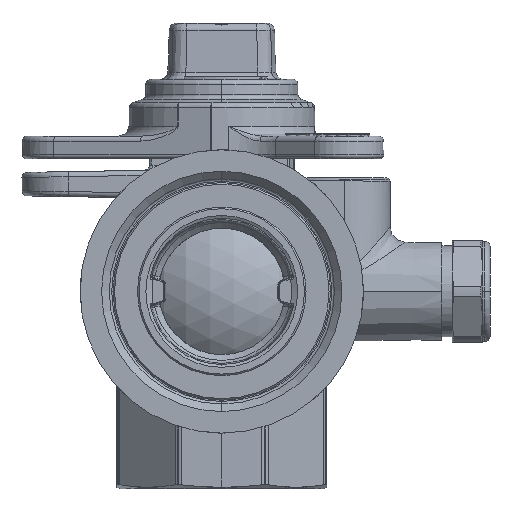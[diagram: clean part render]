
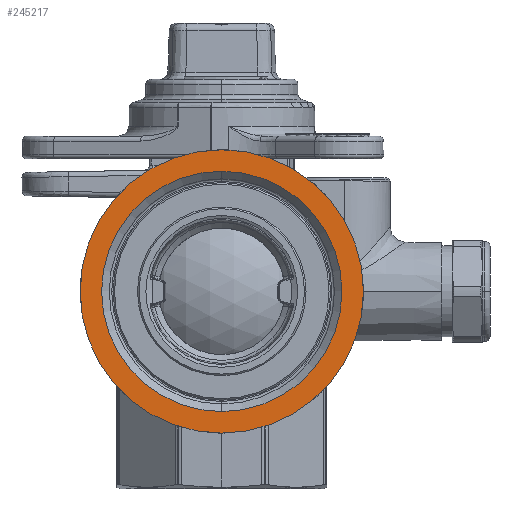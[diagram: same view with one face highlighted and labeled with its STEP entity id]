
A CAD part, left-side view. The second image highlights one B-rep face of the part: STEP entity #245217.
In plain terms, the highlighted planar face has unit normal (-1, 0, 0).
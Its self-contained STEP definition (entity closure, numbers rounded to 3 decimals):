
#245015 = CONICAL_SURFACE('',#245016,23.,0.785);
#245016 = AXIS2_PLACEMENT_3D('',#245017,#245018,#245019);
#245017 = CARTESIAN_POINT('',(-68.65,-27.416,-0.908));
#245018 = DIRECTION('',(-1.,0.,0.));
#245019 = DIRECTION('',(0.,0.,1.));
#245089 = CONICAL_SURFACE('',#245090,23.,0.785);
#245090 = AXIS2_PLACEMENT_3D('',#245091,#245092,#245093);
#245091 = CARTESIAN_POINT('',(-68.65,-27.416,-0.908));
#245092 = DIRECTION('',(-1.,0.,0.));
#245093 = DIRECTION('',(0.,0.,1.));
#245113 = VERTEX_POINT('',#245114);
#245114 = CARTESIAN_POINT('',(-69.4,-27.416,22.842));
#245135 = EDGE_CURVE('',#245113,#245136,#245138,.T.);
#245136 = VERTEX_POINT('',#245137);
#245137 = CARTESIAN_POINT('',(-69.4,-27.416,-24.658));
#245138 = SURFACE_CURVE('',#245139,(#245144,#245151),.PCURVE_S1.);
#245139 = CIRCLE('',#245140,23.75);
#245140 = AXIS2_PLACEMENT_3D('',#245141,#245142,#245143);
#245141 = CARTESIAN_POINT('',(-69.4,-27.416,-0.908));
#245142 = DIRECTION('',(1.,0.,0.));
#245143 = DIRECTION('',(0.,0.,1.));
#245144 = PCURVE('',#245089,#245145);
#245145 = DEFINITIONAL_REPRESENTATION('',(#245146),#245150);
#245146 = LINE('',#245147,#245148);
#245147 = CARTESIAN_POINT('',(6.283,0.75));
#245148 = VECTOR('',#245149,1.);
#245149 = DIRECTION('',(-1.,0.));
#245150 = ( GEOMETRIC_REPRESENTATION_CONTEXT(2) 
PARAMETRIC_REPRESENTATION_CONTEXT() REPRESENTATION_CONTEXT('2D SPACE',''
  ) );
#245151 = PCURVE('',#245152,#245157);
#245152 = PLANE('',#245153);
#245153 = AXIS2_PLACEMENT_3D('',#245154,#245155,#245156);
#245154 = CARTESIAN_POINT('',(-69.4,-27.416,-0.908));
#245155 = DIRECTION('',(-1.,0.,0.));
#245156 = DIRECTION('',(0.,0.,1.));
#245157 = DEFINITIONAL_REPRESENTATION('',(#245158),#245166);
#245158 = ( BOUNDED_CURVE() B_SPLINE_CURVE(2,(#245159,#245160,#245161,
    #245162,#245163,#245164,#245165),.UNSPECIFIED.,.T.,.F.) 
B_SPLINE_CURVE_WITH_KNOTS((1,2,2,2,2,1),(-2.094,0.,
    2.094,4.189,6.283,8.378),
.UNSPECIFIED.) CURVE() GEOMETRIC_REPRESENTATION_ITEM() 
RATIONAL_B_SPLINE_CURVE((1.,0.5,1.,0.5,1.,0.5,1.)) REPRESENTATION_ITEM(
  '') );
#245159 = CARTESIAN_POINT('',(23.75,0.));
#245160 = CARTESIAN_POINT('',(23.75,-41.136));
#245161 = CARTESIAN_POINT('',(-11.875,-20.568));
#245162 = CARTESIAN_POINT('',(-47.5,0.));
#245163 = CARTESIAN_POINT('',(-11.875,20.568));
#245164 = CARTESIAN_POINT('',(23.75,41.136));
#245165 = CARTESIAN_POINT('',(23.75,0.));
#245166 = ( GEOMETRIC_REPRESENTATION_CONTEXT(2) 
PARAMETRIC_REPRESENTATION_CONTEXT() REPRESENTATION_CONTEXT('2D SPACE',''
  ) );
#245193 = EDGE_CURVE('',#245113,#245136,#245194,.T.);
#245194 = SURFACE_CURVE('',#245195,(#245200,#245207),.PCURVE_S1.);
#245195 = CIRCLE('',#245196,23.75);
#245196 = AXIS2_PLACEMENT_3D('',#245197,#245198,#245199);
#245197 = CARTESIAN_POINT('',(-69.4,-27.416,-0.908));
#245198 = DIRECTION('',(-1.,0.,0.));
#245199 = DIRECTION('',(0.,0.,1.));
#245200 = PCURVE('',#245015,#245201);
#245201 = DEFINITIONAL_REPRESENTATION('',(#245202),#245206);
#245202 = LINE('',#245203,#245204);
#245203 = CARTESIAN_POINT('',(0.,0.75));
#245204 = VECTOR('',#245205,1.);
#245205 = DIRECTION('',(1.,0.));
#245206 = ( GEOMETRIC_REPRESENTATION_CONTEXT(2) 
PARAMETRIC_REPRESENTATION_CONTEXT() REPRESENTATION_CONTEXT('2D SPACE',''
  ) );
#245207 = PCURVE('',#245152,#245208);
#245208 = DEFINITIONAL_REPRESENTATION('',(#245209),#245213);
#245209 = CIRCLE('',#245210,23.75);
#245210 = AXIS2_PLACEMENT_2D('',#245211,#245212);
#245211 = CARTESIAN_POINT('',(0.,0.));
#245212 = DIRECTION('',(1.,0.));
#245213 = ( GEOMETRIC_REPRESENTATION_CONTEXT(2) 
PARAMETRIC_REPRESENTATION_CONTEXT() REPRESENTATION_CONTEXT('2D SPACE',''
  ) );
#245217 = ADVANCED_FACE('',(#245218,#245278),#245152,.T.);
#245218 = FACE_BOUND('',#245219,.T.);
#245219 = EDGE_LOOP('',(#245220,#245251));
#245220 = ORIENTED_EDGE('',*,*,#245221,.T.);
#245221 = EDGE_CURVE('',#245222,#245224,#245226,.T.);
#245222 = VERTEX_POINT('',#245223);
#245223 = CARTESIAN_POINT('',(-69.4,-55.416,-0.908));
#245224 = VERTEX_POINT('',#245225);
#245225 = CARTESIAN_POINT('',(-69.4,0.584,-0.908));
#245226 = SURFACE_CURVE('',#245227,(#245232,#245239),.PCURVE_S1.);
#245227 = CIRCLE('',#245228,28.);
#245228 = AXIS2_PLACEMENT_3D('',#245229,#245230,#245231);
#245229 = CARTESIAN_POINT('',(-69.4,-27.416,-0.908));
#245230 = DIRECTION('',(-1.,0.,0.));
#245231 = DIRECTION('',(-0.,-1.,0.));
#245232 = PCURVE('',#245152,#245233);
#245233 = DEFINITIONAL_REPRESENTATION('',(#245234),#245238);
#245234 = CIRCLE('',#245235,28.);
#245235 = AXIS2_PLACEMENT_2D('',#245236,#245237);
#245236 = CARTESIAN_POINT('',(0.,0.));
#245237 = DIRECTION('',(0.,-1.));
#245238 = ( GEOMETRIC_REPRESENTATION_CONTEXT(2) 
PARAMETRIC_REPRESENTATION_CONTEXT() REPRESENTATION_CONTEXT('2D SPACE',''
  ) );
#245239 = PCURVE('',#245240,#245245);
#245240 = CYLINDRICAL_SURFACE('',#245241,28.);
#245241 = AXIS2_PLACEMENT_3D('',#245242,#245243,#245244);
#245242 = CARTESIAN_POINT('',(-70.4,-27.416,-0.908));
#245243 = DIRECTION('',(1.,0.,0.));
#245244 = DIRECTION('',(0.,-1.,0.));
#245245 = DEFINITIONAL_REPRESENTATION('',(#245246),#245250);
#245246 = LINE('',#245247,#245248);
#245247 = CARTESIAN_POINT('',(6.283,1.));
#245248 = VECTOR('',#245249,1.);
#245249 = DIRECTION('',(-1.,0.));
#245250 = ( GEOMETRIC_REPRESENTATION_CONTEXT(2) 
PARAMETRIC_REPRESENTATION_CONTEXT() REPRESENTATION_CONTEXT('2D SPACE',''
  ) );
#245251 = ORIENTED_EDGE('',*,*,#245252,.T.);
#245252 = EDGE_CURVE('',#245224,#245222,#245253,.T.);
#245253 = SURFACE_CURVE('',#245254,(#245259,#245266),.PCURVE_S1.);
#245254 = CIRCLE('',#245255,28.);
#245255 = AXIS2_PLACEMENT_3D('',#245256,#245257,#245258);
#245256 = CARTESIAN_POINT('',(-69.4,-27.416,-0.908));
#245257 = DIRECTION('',(-1.,0.,0.));
#245258 = DIRECTION('',(0.,1.,0.));
#245259 = PCURVE('',#245152,#245260);
#245260 = DEFINITIONAL_REPRESENTATION('',(#245261),#245265);
#245261 = CIRCLE('',#245262,28.);
#245262 = AXIS2_PLACEMENT_2D('',#245263,#245264);
#245263 = CARTESIAN_POINT('',(0.,0.));
#245264 = DIRECTION('',(0.,1.));
#245265 = ( GEOMETRIC_REPRESENTATION_CONTEXT(2) 
PARAMETRIC_REPRESENTATION_CONTEXT() REPRESENTATION_CONTEXT('2D SPACE',''
  ) );
#245266 = PCURVE('',#245267,#245272);
#245267 = CYLINDRICAL_SURFACE('',#245268,28.);
#245268 = AXIS2_PLACEMENT_3D('',#245269,#245270,#245271);
#245269 = CARTESIAN_POINT('',(-70.4,-27.416,-0.908));
#245270 = DIRECTION('',(1.,0.,0.));
#245271 = DIRECTION('',(0.,-1.,0.));
#245272 = DEFINITIONAL_REPRESENTATION('',(#245273),#245277);
#245273 = LINE('',#245274,#245275);
#245274 = CARTESIAN_POINT('',(3.142,1.));
#245275 = VECTOR('',#245276,1.);
#245276 = DIRECTION('',(-1.,0.));
#245277 = ( GEOMETRIC_REPRESENTATION_CONTEXT(2) 
PARAMETRIC_REPRESENTATION_CONTEXT() REPRESENTATION_CONTEXT('2D SPACE',''
  ) );
#245278 = FACE_BOUND('',#245279,.T.);
#245279 = EDGE_LOOP('',(#245280,#245281));
#245280 = ORIENTED_EDGE('',*,*,#245135,.T.);
#245281 = ORIENTED_EDGE('',*,*,#245193,.F.);
